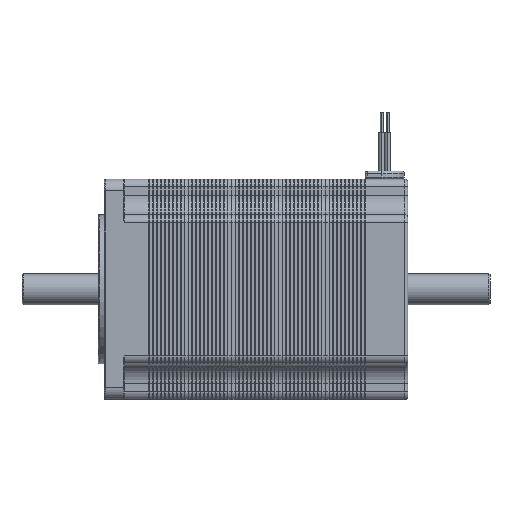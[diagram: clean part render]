
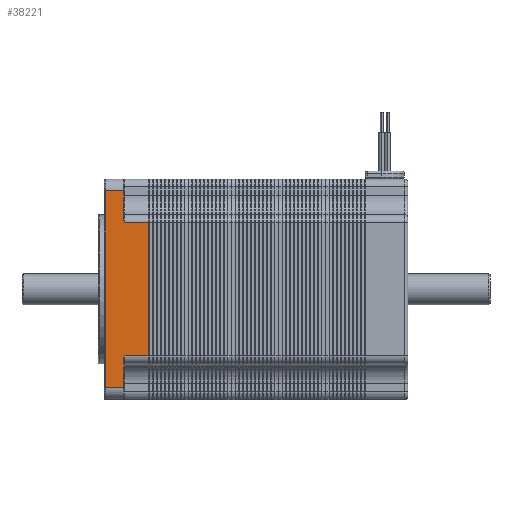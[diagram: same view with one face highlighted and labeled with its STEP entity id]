
A CAD part, left-side view. The second image highlights one B-rep face of the part: STEP entity #38221.
In plain terms, the highlighted planar face has unit normal (-1, 0, 0).
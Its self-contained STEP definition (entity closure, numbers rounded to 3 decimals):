
#808 = ORIENTED_EDGE ( 'NONE', *, *, #179636, .T. ) ;
#1523 = LINE ( 'NONE', #144899, #96544 ) ;
#2451 = VERTEX_POINT ( 'NONE', #144747 ) ;
#4119 = CARTESIAN_POINT ( 'NONE',  ( -28.15, 72.7, -18.265 ) ) ;
#10799 = CARTESIAN_POINT ( 'NONE',  ( -28.15, 72.7, -17. ) ) ;
#15094 = CARTESIAN_POINT ( 'NONE',  ( -28.15, 77.3, -25.15 ) ) ;
#15613 = VERTEX_POINT ( 'NONE', #85337 ) ;
#20650 = EDGE_CURVE ( 'NONE', #2451, #21904, #158217, .T. ) ;
#21904 = VERTEX_POINT ( 'NONE', #96229 ) ;
#25547 = DIRECTION ( 'NONE',  ( 1., 0., 0. ) ) ;
#29827 = EDGE_CURVE ( 'NONE', #21904, #65933, #78885, .T. ) ;
#33501 = CARTESIAN_POINT ( 'NONE',  ( -28.15, 72.491, 17.403 ) ) ;
#34274 = VERTEX_POINT ( 'NONE', #102528 ) ;
#37650 = LINE ( 'NONE', #165015, #118643 ) ;
#38221 = ADVANCED_FACE ( 'NONE', ( #182213 ), #82115, .F. ) ;
#39616 = CARTESIAN_POINT ( 'NONE',  ( -28.15, 72.7, -25.15 ) ) ;
#40649 = CARTESIAN_POINT ( 'NONE',  ( -28.15, 77.3, 25.15 ) ) ;
#50131 = ORIENTED_EDGE ( 'NONE', *, *, #130957, .T. ) ;
#51476 = VECTOR ( 'NONE', #57490, 1000. ) ;
#55384 = DIRECTION ( 'NONE',  ( 0., 1., 0. ) ) ;
#57490 = DIRECTION ( 'NONE',  ( 0., -1., 0. ) ) ;
#60262 = LINE ( 'NONE', #101876, #51476 ) ;
#65328 = CARTESIAN_POINT ( 'NONE',  ( -28.15, 72.491, -17.403 ) ) ;
#65933 = VERTEX_POINT ( 'NONE', #92341 ) ;
#68325 = DIRECTION ( 'NONE',  ( 0., 0., 1. ) ) ;
#68914 = DIRECTION ( 'NONE',  ( 0., 0., -1. ) ) ;
#69729 = VECTOR ( 'NONE', #90694, 1000. ) ;
#71368 = LINE ( 'NONE', #184706, #101279 ) ;
#74209 = ORIENTED_EDGE ( 'NONE', *, *, #134521, .F. ) ;
#77717 = CARTESIAN_POINT ( 'NONE',  ( -28.15, 72.395, 17.202 ) ) ;
#78885 = LINE ( 'NONE', #137437, #157604 ) ;
#82115 = PLANE ( 'NONE',  #179917 ) ;
#82438 = LINE ( 'NONE', #10799, #109038 ) ;
#82565 = CARTESIAN_POINT ( 'NONE',  ( -28.15, 72.7, 18.265 ) ) ;
#83005 = EDGE_CURVE ( 'NONE', #86934, #93131, #82438, .T. ) ;
#85337 = CARTESIAN_POINT ( 'NONE',  ( -28.15, 66.1, 17. ) ) ;
#86934 = VERTEX_POINT ( 'NONE', #82565 ) ;
#89744 = LINE ( 'NONE', #142070, #69729 ) ;
#90694 = DIRECTION ( 'NONE',  ( 0., 0., 1. ) ) ;
#90801 = CARTESIAN_POINT ( 'NONE',  ( -28.15, 72.642, -17.823 ) ) ;
#90912 = CARTESIAN_POINT ( 'NONE',  ( -28.15, 72.7, 18.265 ) ) ;
#91397 = DIRECTION ( 'NONE',  ( 0., 0., -1. ) ) ;
#92341 = CARTESIAN_POINT ( 'NONE',  ( -28.15, 66.1, -17. ) ) ;
#93131 = VERTEX_POINT ( 'NONE', #167348 ) ;
#95114 = DIRECTION ( 'NONE',  ( 0., 0., 1. ) ) ;
#96229 = CARTESIAN_POINT ( 'NONE',  ( -28.15, 72.3, -17. ) ) ;
#96544 = VECTOR ( 'NONE', #129858, 1000. ) ;
#100841 = ORIENTED_EDGE ( 'NONE', *, *, #117311, .T. ) ;
#101279 = VECTOR ( 'NONE', #55384, 1000. ) ;
#101876 = CARTESIAN_POINT ( 'NONE',  ( -28.15, 77.5, 17. ) ) ;
#102528 = CARTESIAN_POINT ( 'NONE',  ( -28.15, 72.3, 17. ) ) ;
#109038 = VECTOR ( 'NONE', #68325, 1000. ) ;
#109753 = ORIENTED_EDGE ( 'NONE', *, *, #20650, .T. ) ;
#114512 = VECTOR ( 'NONE', #91397, 1000. ) ;
#114613 = ORIENTED_EDGE ( 'NONE', *, *, #134913, .T. ) ;
#117311 = EDGE_CURVE ( 'NONE', #139207, #180384, #158459, .T. ) ;
#118643 = VECTOR ( 'NONE', #95114, 1000. ) ;
#123164 = CARTESIAN_POINT ( 'NONE',  ( -28.15, 77.3, -25.15 ) ) ;
#129858 = DIRECTION ( 'NONE',  ( 0., 1., 0. ) ) ;
#130957 = EDGE_CURVE ( 'NONE', #34274, #86934, #148328, .T. ) ;
#132711 = EDGE_CURVE ( 'NONE', #145460, #180384, #71368, .T. ) ;
#134521 = EDGE_CURVE ( 'NONE', #34274, #15613, #60262, .T. ) ;
#134913 = EDGE_CURVE ( 'NONE', #65933, #15613, #89744, .T. ) ;
#135559 = DIRECTION ( 'NONE',  ( 0., -1., 0. ) ) ;
#135907 = ORIENTED_EDGE ( 'NONE', *, *, #132711, .F. ) ;
#137437 = CARTESIAN_POINT ( 'NONE',  ( -28.15, 77.5, -17. ) ) ;
#139207 = VERTEX_POINT ( 'NONE', #40649 ) ;
#142070 = CARTESIAN_POINT ( 'NONE',  ( -28.15, 66.1, -17. ) ) ;
#143437 = CARTESIAN_POINT ( 'NONE',  ( -28.15, 77.5, -17. ) ) ;
#144747 = CARTESIAN_POINT ( 'NONE',  ( -28.15, 72.7, -18.265 ) ) ;
#144899 = CARTESIAN_POINT ( 'NONE',  ( -28.15, 72.5, 25.15 ) ) ;
#145460 = VERTEX_POINT ( 'NONE', #39616 ) ;
#146620 = CARTESIAN_POINT ( 'NONE',  ( -28.15, 72.7, 18.04 ) ) ;
#148328 = B_SPLINE_CURVE_WITH_KNOTS ( 'NONE', 3,
 ( #163600, #77717, #33501, #175017, #146620, #90912 ),
 .UNSPECIFIED., .F., .F.,
 ( 4, 2, 4 ),
 ( 0., 0.001, 0.001 ),
 .UNSPECIFIED. ) ;
#151221 = CARTESIAN_POINT ( 'NONE',  ( -28.15, 72.3, -17. ) ) ;
#157604 = VECTOR ( 'NONE', #135559, 1000. ) ;
#158217 = B_SPLINE_CURVE_WITH_KNOTS ( 'NONE', 3,
 ( #4119, #164444, #90801, #65328, #163496, #151221 ),
 .UNSPECIFIED., .F., .F.,
 ( 4, 2, 4 ),
 ( 0., 0.001, 0.001 ),
 .UNSPECIFIED. ) ;
#158459 = LINE ( 'NONE', #15094, #114512 ) ;
#159475 = ORIENTED_EDGE ( 'NONE', *, *, #29827, .T. ) ;
#163496 = CARTESIAN_POINT ( 'NONE',  ( -28.15, 72.395, -17.201 ) ) ;
#163600 = CARTESIAN_POINT ( 'NONE',  ( -28.15, 72.3, 17. ) ) ;
#164444 = CARTESIAN_POINT ( 'NONE',  ( -28.15, 72.7, -18.04 ) ) ;
#165015 = CARTESIAN_POINT ( 'NONE',  ( -28.15, 72.7, -17. ) ) ;
#167348 = CARTESIAN_POINT ( 'NONE',  ( -28.15, 72.7, 25.15 ) ) ;
#168194 = ORIENTED_EDGE ( 'NONE', *, *, #83005, .T. ) ;
#168231 = EDGE_LOOP ( 'NONE', ( #808, #100841, #135907, #176333, #109753, #159475, #114613, #74209, #50131, #168194 ) ) ;
#175017 = CARTESIAN_POINT ( 'NONE',  ( -28.15, 72.642, 17.823 ) ) ;
#176333 = ORIENTED_EDGE ( 'NONE', *, *, #182264, .T. ) ;
#179636 = EDGE_CURVE ( 'NONE', #93131, #139207, #1523, .T. ) ;
#179917 = AXIS2_PLACEMENT_3D ( 'NONE', #143437, #25547, #68914 ) ;
#180384 = VERTEX_POINT ( 'NONE', #123164 ) ;
#182213 = FACE_OUTER_BOUND ( 'NONE', #168231, .T. ) ;
#182264 = EDGE_CURVE ( 'NONE', #145460, #2451, #37650, .T. ) ;
#184706 = CARTESIAN_POINT ( 'NONE',  ( -28.15, 72.5, -25.15 ) ) ;
